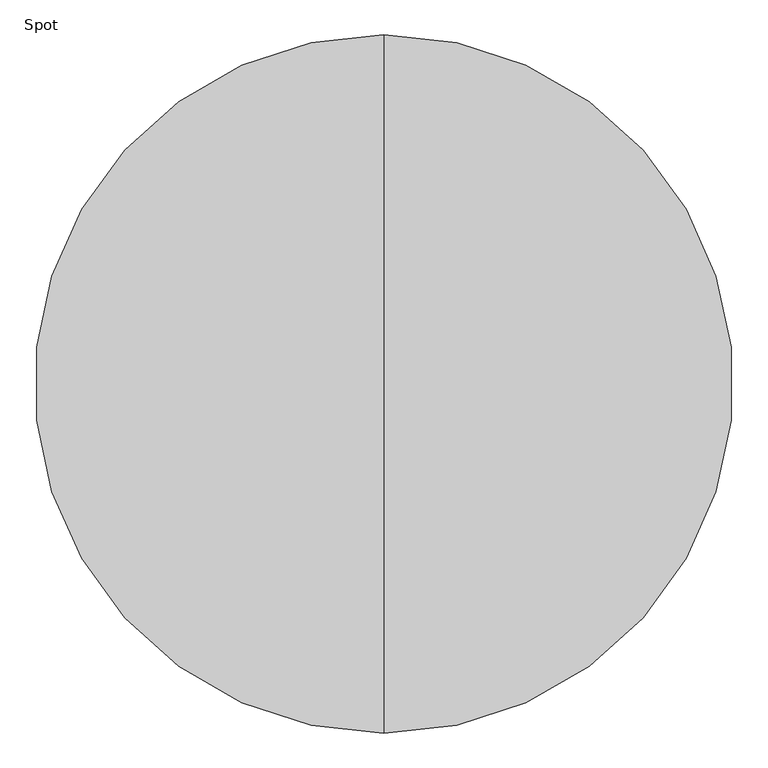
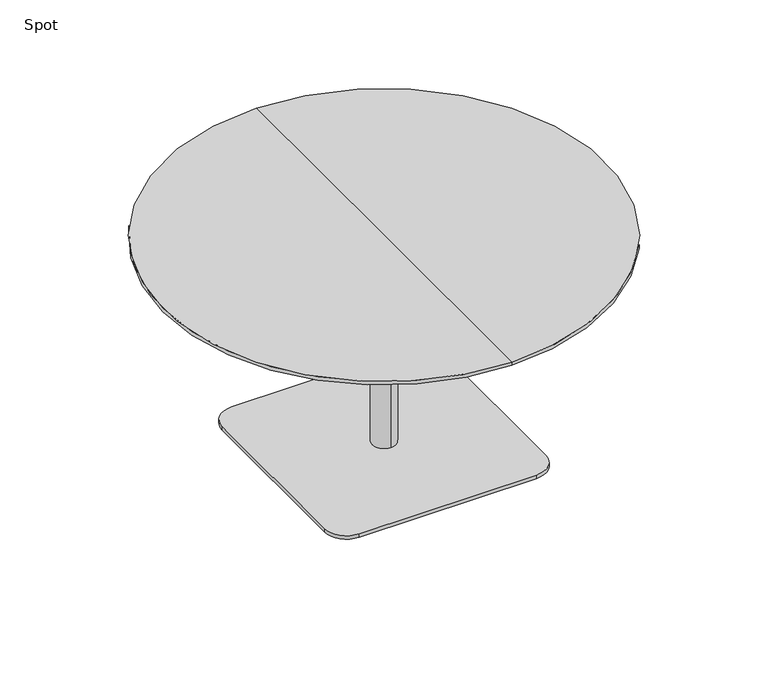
"""IFC4 building model written with IfcOpenShell, lengths in millimetres: furniture geometry, Spot : ø120x60s."""

from ifc_helpers import new_model, si_unit, point, frame, frame_2d, origin, origin_with_axes, place, context, project, spatial, polyline, circle_curve, trimmed, segment, composite_curve, outline, extrude, source, transform, mapped, element, save
from ifc_brep_helpers import plane_surface, cylinder_surface, revolved_surface, advanced_brep


def spot_f74180ac(model_context):
    return source(origin(), model_context, "Body", "SolidModel", [
        advanced_brep(
        [(0.0, 600.0, 600.0), (0.0, -600.0, 600.0), (0.0, 0.0, 600.0), (0.0, 600.0, 590.25), (0.0, -600.0, 590.25), (0.0, 554.2823776, 578.0), (0.0, -554.2823776, 578.0), (0.0, 0.0, 578.0)],
        [
            (0, 1, circle_curve(frame((0.0, 0.0, 600.0), z_axis=(0.0, 0.0, 1.0), x_axis=(0.0, -1.0, 0.0)), 600.0)),
            (1, 2),
            (2, 0),
            (1, 0, circle_curve(frame((0.0, 0.0, 600.0), z_axis=(0.0, 0.0, 1.0), x_axis=(0.0, -1.0, 0.0)), 600.0)),
            (3, 4, circle_curve(frame((0.0, 0.0, 590.25), z_axis=(0.0, 0.0, 1.0), x_axis=(0.0, -1.0, 0.0)), 600.0)),
            (4, 1),
            (0, 3),
            (4, 3, circle_curve(frame((0.0, 0.0, 590.25), z_axis=(0.0, 0.0, 1.0), x_axis=(0.0, -1.0, 0.0)), 600.0)),
            (5, 6, circle_curve(frame((0.0, 0.0, 578.0), z_axis=(0.0, 0.0, 1.0), x_axis=(0.0, -1.0, 0.0)), 554.2823776)),
            (6, 4),
            (3, 5),
            (6, 5, circle_curve(frame((0.0, 0.0, 578.0), z_axis=(0.0, 0.0, 1.0), x_axis=(0.0, -1.0, 0.0)), 554.2823776)),
            (7, 6),
            (5, 7),
        ],
        [
            plane_surface(frame((0.0, 0.0, 600.0), z_axis=(0.0, 0.0, 1.0), x_axis=(0.0, -1.0, 0.0))),
            cylinder_surface(frame((0.0, 0.0, 680.0), z_axis=(0.0, 0.0, -1.0), x_axis=(0.0, -1.0, 0.0)), 600.0),
            revolved_surface(polyline([(0.0, -600.0, 590.25), (0.0, -554.2823776, 578.0)]), (0.0, 0.0, 680.0), (0.0, 0.0, -1.0)),
            plane_surface(frame((0.0, 0.0, 578.0), z_axis=(0.0, 0.0, -1.0), x_axis=(0.0, -1.0, 0.0))),
        ],
        [
            (0, [[1, 2, 3]]),
            (0, [[4, -3, -2]]),
            (1, [[5, 6, -1, 7]]),
            (1, [[8, -7, -4, -6]]),
            (2, [[9, 10, -5, 11]]),
            (2, [[12, -11, -8, -10]]),
            (3, [[13, -9, 14]]),
            (3, [[-14, -12, -13]]),
        ],
    ),
        extrude(outline(composite_curve([segment(trimmed(circle_curve(frame_2d((240.0, 240.0)), 60.0), [point((240.0, 300.0))], [point((300.0, 240.0))], False, "CARTESIAN"), True, "CONTINUOUS"), segment(polyline([(300.0, 240.0), (300.0, -240.0)]), True, "CONTINUOUS"), segment(trimmed(circle_curve(frame_2d((240.0, -240.0)), 60.0), [point((300.0, -240.0))], [point((240.0, -300.0))], False, "CARTESIAN"), True, "CONTINUOUS"), segment(polyline([(240.0, -300.0), (-240.0, -300.0)]), True, "CONTINUOUS"), segment(trimmed(circle_curve(frame_2d((-240.0, -240.0)), 60.0), [point((-240.0, -300.0))], [point((-300.0, -240.0))], False, "CARTESIAN"), True, "CONTINUOUS"), segment(polyline([(-300.0, -240.0), (-300.0, 240.0)]), True, "CONTINUOUS"), segment(trimmed(circle_curve(frame_2d((-240.0, 240.0)), 60.0), [point((-300.0, 240.0))], [point((-240.0, 300.0))], False, "CARTESIAN"), True, "CONTINUOUS"), segment(polyline([(-240.0, 300.0), (240.0, 300.0)]), True, "CONTINUOUS")], self_intersect=False)), origin_with_axes(), (0.0, 0.0, 1.0), 10.0),
        advanced_brep(
        [(0.0, 32.0, 10.0), (0.0, -32.0, 10.0), (0.0, -32.0, 547.406916), (0.0, 32.0, 547.406916), (0.0, 0.0, 10.0), (0.0, 150.0, 578.0), (0.0, -150.0, 578.0), (0.0, 0.0, 578.0), (0.0, 150.0, 566.7213673), (0.0, -150.0, 566.7213673)],
        [
            (0, 1, circle_curve(frame((0.0, 0.0, 10.0), z_axis=(0.0, 0.0, 1.0), x_axis=(0.0, -1.0, 0.0)), 32.0)),
            (1, 2),
            (2, 3, circle_curve(frame((0.0, 0.0, 547.406916), z_axis=(0.0, 0.0, -1.0), x_axis=(0.0, -1.0, 0.0)), 32.0)),
            (3, 0),
            (1, 0, circle_curve(frame((0.0, 0.0, 10.0), z_axis=(0.0, 0.0, 1.0), x_axis=(0.0, -1.0, 0.0)), 32.0)),
            (3, 2, circle_curve(frame((0.0, 0.0, 547.406916), z_axis=(0.0, 0.0, -1.0), x_axis=(0.0, -1.0, 0.0)), 32.0)),
            (4, 1),
            (0, 4),
            (5, 6, circle_curve(frame((0.0, 0.0, 578.0), z_axis=(0.0, 0.0, 1.0), x_axis=(0.0, -1.0, 0.0)), 150.0)),
            (6, 7),
            (7, 5),
            (6, 5, circle_curve(frame((0.0, 0.0, 578.0), z_axis=(0.0, 0.0, 1.0), x_axis=(0.0, -1.0, 0.0)), 150.0)),
            (8, 9, circle_curve(frame((0.0, 0.0, 566.7213673), z_axis=(0.0, 0.0, 1.0), x_axis=(0.0, -1.0, 0.0)), 150.0)),
            (9, 6),
            (5, 8),
            (9, 8, circle_curve(frame((0.0, 0.0, 566.7213673), z_axis=(0.0, 0.0, 1.0), x_axis=(0.0, -1.0, 0.0)), 150.0)),
            (2, 9),
            (8, 3),
        ],
        [
            cylinder_surface(frame((0.0, 0.0, 940.0), z_axis=(0.0, 0.0, -1.0), x_axis=(0.0, -1.0, 0.0)), 32.0),
            plane_surface(frame((0.0, 0.0, 10.0), z_axis=(0.0, 0.0, -1.0), x_axis=(0.0, -1.0, 0.0))),
            plane_surface(frame((0.0, 0.0, 578.0), z_axis=(0.0, 0.0, 1.0), x_axis=(0.0, -1.0, 0.0))),
            cylinder_surface(frame((0.0, 0.0, 940.0), z_axis=(0.0, 0.0, -1.0), x_axis=(0.0, -1.0, 0.0)), 150.0),
            revolved_surface(polyline([(0.0, -150.0, 566.7213673), (0.0, -32.0, 547.406916)]), (0.0, 0.0, 940.0), (0.0, 0.0, -1.0)),
        ],
        [
            (0, [[1, 2, 3, 4]]),
            (0, [[5, -4, 6, -2]]),
            (1, [[7, -1, 8]]),
            (1, [[-8, -5, -7]]),
            (2, [[9, 10, 11]]),
            (2, [[12, -11, -10]]),
            (3, [[13, 14, -9, 15]]),
            (3, [[16, -15, -12, -14]]),
            (4, [[-3, 17, -13, 18]]),
            (4, [[-6, -18, -16, -17]]),
        ],
    ),
        extrude(outline(polyline([(0.0, 0.0), (-20.0, 0.0), (-20.0, 20.0), (0.0, 20.0), (0.0, 0.0)])), origin_with_axes(), (0.0, 0.0, 1.0), 10.0),
    ])


if __name__ == "__main__":
    model = new_model("IFC4")
    model_context = context("Model", 3, world=origin())
    ifc_project = project(units=[si_unit("LENGTHUNIT", "METRE", prefix="MILLI")], contexts=[model_context])
    site = spatial("IfcSite", under=ifc_project)
    building = spatial("IfcBuilding", under=site)
    placement = place(None, origin())
    spot_shape = spot_f74180ac(model_context)
    element("IfcFurniture", 1, ObjectType="Spot : ø120x60s", at=placement, inside=building, context=model_context, shape_type="MappedRepresentation", body=[
        mapped(spot_shape, transform((0.0, 0.0, 0.0), x_axis=(1.0, 0.0, 0.0), y_axis=(0.0, 1.0, 0.0), z_axis=(0.0, 0.0, 1.0))),
    ])
    save(model, "model.ifc")
